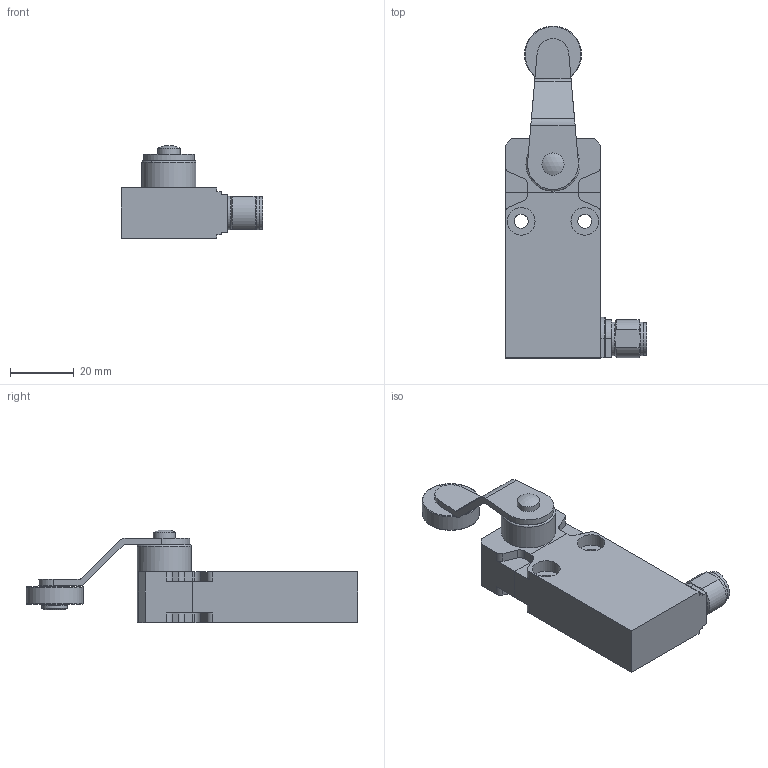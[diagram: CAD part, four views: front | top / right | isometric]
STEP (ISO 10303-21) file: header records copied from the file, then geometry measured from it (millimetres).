
FILE_DESCRIPTION(/* description */ (''),/* implementation_level */ '2;1');
FILE_NAME(/* name */ 'C:\Users\servizio.tecnico\Desktop\CADENAS\3D\EP1_STP\STP_EP1_G45M.stp',/* time_stamp */ '2017-09-04T11:45:16+02:00',/* author */ ('servizio.tecnico'),/* organization */ (''),/* preprocessor_version */ 'ST-DEVELOPER v16.1',/* originating_system */ 'Autodesk Inventor 2016',/* authorisation */ '');
FILE_SCHEMA (('AUTOMOTIVE_DESIGN { 1 0 10303 214 3 1 1 }'));
Length unit declared in the file: millimetre
Products named in the file (3): Product; EP1G45-M; BASE ASSI 
Assembly tree (2 placements, depth 3):
  BASE ASSI 
    EP1G45-M
      Product
Bounding box: 44.5 x 104.5 x 29.28 mm (x, y, z)
Volume: 36969.1 mm3; surface area: 12476.8 mm2
Topology: 4 solids, 4 shells, 133 faces, 329 edges, 217 vertices
Faces by surface type: plane 74, cylinder 49, cone 5, torus 4, sphere 1
Full cylindrical faces by diameter (mm): 4.4 x2, 6 x2, 7 x1, 8 x1, 8.7 x4, 9.5 x2, 10.3 x1, 10.6 x2, 17 x1, 18 x1
Entity records: 3936 total; most frequent: DIRECTION 676, CARTESIAN_POINT 667, ORIENTED_EDGE 604, EDGE_CURVE 302, AXIS2_PLACEMENT_3D 244, VERTEX_POINT 211, LINE 188, VECTOR 188
